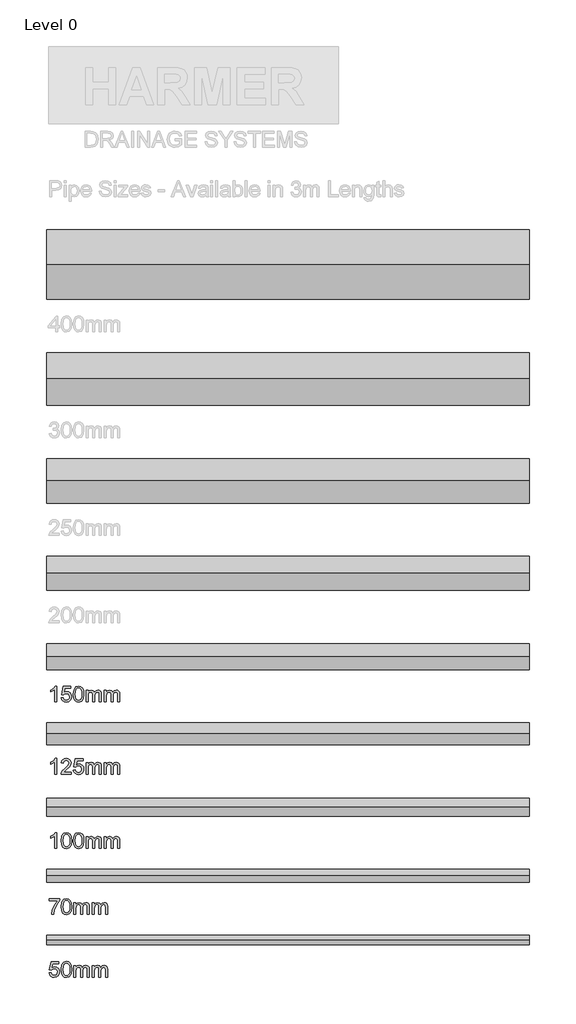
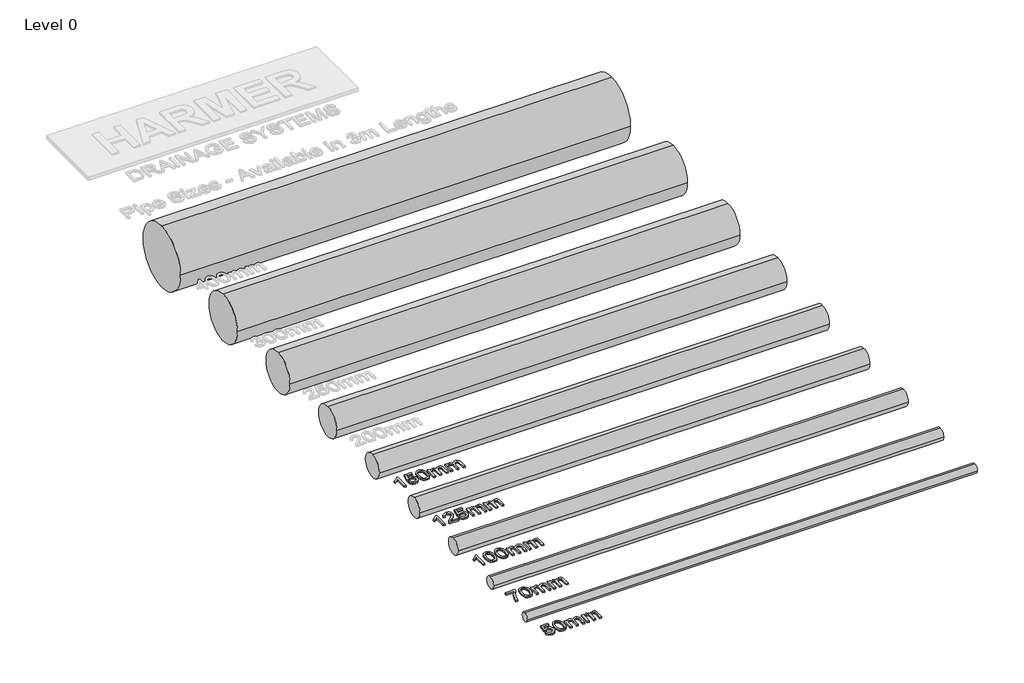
# One storey, part 1 of 3: 9 pipe fittings, 5 proxies.
"""IFC4 building model written with IfcOpenShell, lengths in millimetres."""

from ifc_helpers import new_model, si_unit, point, frame, frame_2d, origin, origin_with_axes, place, context, project, spatial, polyline, circle_curve, trimmed, segment, composite_curve, outline, extrude, element, save

model = new_model("IFC4")

# Units and contexts
model_context = context("Model", 3, world=origin())
ifc_project = project(units=[si_unit("LENGTHUNIT", "METRE", prefix="MILLI")], contexts=[model_context])

# Site, building, storey
site = spatial("IfcSite", under=ifc_project)
building = spatial("IfcBuilding", under=site)
storey = spatial("IfcBuildingStorey", under=building, Name="Level 0", Elevation=0.0)

# Proxies
placement = place(None, origin())
element("IfcBuildingElementProxy", 1, Name="100mm Arial", ObjectType="100mm Arial", at=placement, inside=storey, context=model_context, shape_type="SweptSolid", body=[
    extrude(outline(polyline([(-6216.9364814, -2387.1105394), (-6204.6287891, -2385.5720779), (-6198.426866, -2398.2523663), (-6185.5662891, -2402.4951548), (-6176.7441737, -2401.0197942), (-6170.1335968, -2396.5937125), (-6166.004991, -2389.7277269), (-6164.6287891, -2380.9326548), (-6169.7850391, -2366.3172702), (-6176.2603997, -2362.2968375), (-6185.3739814, -2360.9566933), (-6196.1792699, -2363.0961163), (-6203.0903276, -2368.649001), (-6215.3980199, -2367.1105394), (-6204.6287891, -2316.3413086), (-6156.9364814, -2316.3413086), (-6156.9364814, -2328.649001), (-6194.676866, -2328.649001), (-6199.9412891, -2355.7643856), (-6191.1492218, -2350.4278471), (-6181.9364814, -2348.649001), (-6170.4370824, -2350.8545298), (-6160.8908083, -2357.4711163), (-6154.4635247, -2367.555251), (-6152.3210968, -2380.163424), (-6154.2501833, -2392.4711163), (-6160.037443, -2402.9999625), (-6171.1191737, -2411.852126), (-6185.614366, -2414.8028471), (-6197.7027074, -2412.9068135), (-6207.333116, -2407.2187125), (-6213.9346785, -2398.3996019), (-6216.9364814, -2387.1105394)])), origin_with_axes(), (0.0, 0.0, 1.0), 10.0),
    extrude(outline(polyline([(-6141.551866, -2364.8268856), (-6137.9340776, -2336.4975586), (-6127.1888853, -2320.163424), (-6109.2441737, -2314.8028471), (-6094.8691737, -2317.975924), (-6084.9412891, -2327.1225586), (-6079.1720583, -2341.6898663), (-6076.9364814, -2364.8268856), (-6080.5182122, -2393.0360202), (-6091.2273468, -2409.4062125), (-6109.2441737, -2414.8028471), (-6122.0326353, -2412.4590971), (-6131.7441737, -2405.4278471), (-6139.099943, -2388.7752029), (-6141.551866, -2364.8268856)]), holes=[polyline([(-6129.2441737, -2364.8028471), (-6127.801866, -2384.1628231), (-6123.474943, -2395.367751), (-6117.0326353, -2400.7133038), (-6109.2441737, -2402.4951548), (-6101.4557122, -2400.7072942), (-6095.0134045, -2395.3437125), (-6090.6864814, -2384.132775), (-6089.2441737, -2364.8028471), (-6090.6384045, -2345.8785683), (-6094.8210968, -2334.586501), (-6101.2513853, -2328.9795298), (-6109.3884045, -2327.1105394), (-6117.0927314, -2328.757174), (-6123.2826353, -2333.6970779), (-6127.7537891, -2345.6922702), (-6129.2441737, -2364.8028471)])]), origin_with_axes(), (0.0, 0.0, 1.0), 10.0),
    extrude(outline(polyline([(-6063.0903276, -2413.2643856), (-6063.0903276, -2340.9566933), (-6050.7826353, -2340.9566933), (-6050.7826353, -2352.8557317), (-6042.3210968, -2343.1081356), (-6030.2778276, -2339.4182317), (-6017.9460968, -2343.180251), (-6011.1672507, -2353.7211163), (-6001.5638853, -2342.9939529), (-5989.4364814, -2339.4182317), (-5980.1846785, -2340.9056115), (-5973.3427314, -2345.367751), (-5969.114967, -2352.9248423), (-5967.7057122, -2363.6970779), (-5967.7057122, -2413.2643856), (-5980.0134045, -2413.2643856), (-5980.0134045, -2368.9855394), (-5981.1552314, -2358.7090971), (-5985.2898468, -2353.649001), (-5992.3210968, -2351.725924), (-6004.4244622, -2356.6538086), (-6009.2441737, -2372.4470779), (-6009.2441737, -2413.2643856), (-6021.551866, -2413.2643856), (-6021.551866, -2367.6153471), (-6024.4004237, -2355.6922702), (-6033.739366, -2351.725924), (-6042.849943, -2354.3701548), (-6048.9076353, -2362.1105394), (-6050.7826353, -2376.7980394), (-6050.7826353, -2413.2643856), (-6063.0903276, -2413.2643856)])), origin_with_axes(), (0.0, 0.0, 1.0), 10.0),
    extrude(outline(polyline([(-5949.2441737, -2413.2643856), (-5949.2441737, -2340.9566933), (-5936.9364814, -2340.9566933), (-5936.9364814, -2352.8557317), (-5928.474943, -2343.1081356), (-5916.4316737, -2339.4182317), (-5904.099943, -2343.180251), (-5897.3210968, -2353.7211163), (-5887.7177314, -2342.9939529), (-5875.5903276, -2339.4182317), (-5866.3385247, -2340.9056115), (-5859.4965776, -2345.367751), (-5855.2688132, -2352.9248423), (-5853.8595583, -2363.6970779), (-5853.8595583, -2413.2643856), (-5866.1672507, -2413.2643856), (-5866.1672507, -2368.9855394), (-5867.3090776, -2358.7090971), (-5871.443693, -2353.649001), (-5878.474943, -2351.725924), (-5890.5783083, -2356.6538086), (-5895.3980199, -2372.4470779), (-5895.3980199, -2413.2643856), (-5907.7057122, -2413.2643856), (-5907.7057122, -2367.6153471), (-5910.5542699, -2355.6922702), (-5919.8932122, -2351.725924), (-5929.0037891, -2354.3701548), (-5935.0614814, -2362.1105394), (-5936.9364814, -2376.7980394), (-5936.9364814, -2413.2643856), (-5949.2441737, -2413.2643856)])), origin_with_axes(), (0.0, 0.0, 1.0), 10.0),
])
element("IfcBuildingElementProxy", 2, Name="100mm Arial", ObjectType="100mm Arial", at=placement, inside=storey, context=model_context, shape_type="SweptSolid", body=[
    extrude(outline(polyline([(-6216.9364814, -1938.649001), (-6216.9364814, -1926.3413086), (-6152.3210968, -1926.3413086), (-6152.3210968, -1936.2932317), (-6170.6504237, -1962.7715971), (-6184.676866, -1996.5095779), (-6189.2441737, -2023.2643856), (-6201.551866, -2023.2643856), (-6196.6600391, -1995.4999625), (-6183.2345583, -1964.117751), (-6164.6287891, -1938.649001), (-6216.9364814, -1938.649001)])), origin_with_axes(), (0.0, 0.0, 1.0), 10.0),
    extrude(outline(polyline([(-6141.551866, -1974.8268856), (-6137.9340776, -1946.4975586), (-6127.1888853, -1930.163424), (-6109.2441737, -1924.8028471), (-6094.8691737, -1927.975924), (-6084.9412891, -1937.1225586), (-6079.1720583, -1951.6898663), (-6076.9364814, -1974.8268856), (-6080.5182122, -2003.0360202), (-6091.2273468, -2019.4062125), (-6109.2441737, -2024.8028471), (-6122.0326353, -2022.4590971), (-6131.7441737, -2015.4278471), (-6139.099943, -1998.7752029), (-6141.551866, -1974.8268856)]), holes=[polyline([(-6129.2441737, -1974.8028471), (-6127.801866, -1994.1628231), (-6123.474943, -2005.367751), (-6117.0326353, -2010.7133038), (-6109.2441737, -2012.4951548), (-6101.4557122, -2010.7072942), (-6095.0134045, -2005.3437125), (-6090.6864814, -1994.132775), (-6089.2441737, -1974.8028471), (-6090.6384045, -1955.8785683), (-6094.8210968, -1944.586501), (-6101.2513853, -1938.9795298), (-6109.3884045, -1937.1105394), (-6117.0927314, -1938.757174), (-6123.2826353, -1943.6970779), (-6127.7537891, -1955.6922702), (-6129.2441737, -1974.8028471)])]), origin_with_axes(), (0.0, 0.0, 1.0), 10.0),
    extrude(outline(polyline([(-6063.0903276, -2023.2643856), (-6063.0903276, -1950.9566933), (-6050.7826353, -1950.9566933), (-6050.7826353, -1962.8557317), (-6042.3210968, -1953.1081356), (-6030.2778276, -1949.4182317), (-6017.9460968, -1953.180251), (-6011.1672507, -1963.7211163), (-6001.5638853, -1952.9939529), (-5989.4364814, -1949.4182317), (-5980.1846785, -1950.9056115), (-5973.3427314, -1955.367751), (-5969.114967, -1962.9248423), (-5967.7057122, -1973.6970779), (-5967.7057122, -2023.2643856), (-5980.0134045, -2023.2643856), (-5980.0134045, -1978.9855394), (-5981.1552314, -1968.7090971), (-5985.2898468, -1963.649001), (-5992.3210968, -1961.725924), (-6004.4244622, -1966.6538086), (-6009.2441737, -1982.4470779), (-6009.2441737, -2023.2643856), (-6021.551866, -2023.2643856), (-6021.551866, -1977.6153471), (-6024.4004237, -1965.6922702), (-6033.739366, -1961.725924), (-6042.849943, -1964.3701548), (-6048.9076353, -1972.1105394), (-6050.7826353, -1986.7980394), (-6050.7826353, -2023.2643856), (-6063.0903276, -2023.2643856)])), origin_with_axes(), (0.0, 0.0, 1.0), 10.0),
    extrude(outline(polyline([(-5949.2441737, -2023.2643856), (-5949.2441737, -1950.9566933), (-5936.9364814, -1950.9566933), (-5936.9364814, -1962.8557317), (-5928.474943, -1953.1081356), (-5916.4316737, -1949.4182317), (-5904.099943, -1953.180251), (-5897.3210968, -1963.7211163), (-5887.7177314, -1952.9939529), (-5875.5903276, -1949.4182317), (-5866.3385247, -1950.9056115), (-5859.4965776, -1955.367751), (-5855.2688132, -1962.9248423), (-5853.8595583, -1973.6970779), (-5853.8595583, -2023.2643856), (-5866.1672507, -2023.2643856), (-5866.1672507, -1978.9855394), (-5867.3090776, -1968.7090971), (-5871.443693, -1963.649001), (-5878.474943, -1961.725924), (-5890.5783083, -1966.6538086), (-5895.3980199, -1982.4470779), (-5895.3980199, -2023.2643856), (-5907.7057122, -2023.2643856), (-5907.7057122, -1977.6153471), (-5910.5542699, -1965.6922702), (-5919.8932122, -1961.725924), (-5929.0037891, -1964.3701548), (-5935.0614814, -1972.1105394), (-5936.9364814, -1986.7980394), (-5936.9364814, -2023.2643856), (-5949.2441737, -2023.2643856)])), origin_with_axes(), (0.0, 0.0, 1.0), 10.0),
])
element("IfcBuildingElementProxy", 3, Name="100mm Arial", ObjectType="100mm Arial", at=placement, inside=storey, context=model_context, shape_type="SweptSolid", body=[
    extrude(outline(polyline([(-6170.7826353, -1613.2643856), (-6183.0903276, -1613.2643856), (-6183.0903276, -1536.5336163), (-6194.7489814, -1544.8389048), (-6207.7057122, -1551.0528471), (-6207.7057122, -1539.4182317), (-6189.6648468, -1527.9038086), (-6178.7153276, -1514.8028471), (-6170.7826353, -1514.8028471), (-6170.7826353, -1613.2643856)])), origin_with_axes(), (0.0, 0.0, 1.0), 10.0),
    extrude(outline(polyline([(-6141.551866, -1564.8268856), (-6137.9340776, -1536.4975586), (-6127.1888853, -1520.163424), (-6109.2441737, -1514.8028471), (-6094.8691737, -1517.975924), (-6084.9412891, -1527.1225586), (-6079.1720583, -1541.6898663), (-6076.9364814, -1564.8268856), (-6080.5182122, -1593.0360202), (-6091.2273468, -1609.4062125), (-6109.2441737, -1614.8028471), (-6122.0326353, -1612.4590971), (-6131.7441737, -1605.4278471), (-6139.099943, -1588.7752029), (-6141.551866, -1564.8268856)]), holes=[polyline([(-6129.2441737, -1564.8028471), (-6127.801866, -1584.1628231), (-6123.474943, -1595.367751), (-6117.0326353, -1600.7133038), (-6109.2441737, -1602.4951548), (-6101.4557122, -1600.7072942), (-6095.0134045, -1595.3437125), (-6090.6864814, -1584.132775), (-6089.2441737, -1564.8028471), (-6090.6384045, -1545.8785683), (-6094.8210968, -1534.586501), (-6101.2513853, -1528.9795298), (-6109.3884045, -1527.1105394), (-6117.0927314, -1528.757174), (-6123.2826353, -1533.6970779), (-6127.7537891, -1545.6922702), (-6129.2441737, -1564.8028471)])]), origin_with_axes(), (0.0, 0.0, 1.0), 10.0),
    extrude(outline(polyline([(-6066.1672507, -1564.8268856), (-6062.5494622, -1536.4975586), (-6051.8042699, -1520.163424), (-6033.8595583, -1514.8028471), (-6019.4845583, -1517.975924), (-6009.5566737, -1527.1225586), (-6003.787443, -1541.6898663), (-6001.551866, -1564.8268856), (-6005.1335968, -1593.0360202), (-6015.8427314, -1609.4062125), (-6033.8595583, -1614.8028471), (-6046.6480199, -1612.4590971), (-6056.3595583, -1605.4278471), (-6063.7153276, -1588.7752029), (-6066.1672507, -1564.8268856)]), holes=[polyline([(-6053.8595583, -1564.8028471), (-6052.4172507, -1584.1628231), (-6048.0903276, -1595.367751), (-6041.6480199, -1600.7133038), (-6033.8595583, -1602.4951548), (-6026.0710968, -1600.7072942), (-6019.6287891, -1595.3437125), (-6015.301866, -1584.132775), (-6013.8595583, -1564.8028471), (-6015.2537891, -1545.8785683), (-6019.4364814, -1534.586501), (-6025.8667699, -1528.9795298), (-6034.0037891, -1527.1105394), (-6041.708116, -1528.757174), (-6047.8980199, -1533.6970779), (-6052.3691737, -1545.6922702), (-6053.8595583, -1564.8028471)])]), origin_with_axes(), (0.0, 0.0, 1.0), 10.0),
    extrude(outline(polyline([(-5987.7057122, -1613.2643856), (-5987.7057122, -1540.9566933), (-5975.3980199, -1540.9566933), (-5975.3980199, -1552.8557317), (-5966.9364814, -1543.1081356), (-5954.8932122, -1539.4182317), (-5942.5614814, -1543.180251), (-5935.7826353, -1553.7211163), (-5926.1792699, -1542.9939529), (-5914.051866, -1539.4182317), (-5904.8000632, -1540.9056115), (-5897.958116, -1545.367751), (-5893.7303516, -1552.9248423), (-5892.3210968, -1563.6970779), (-5892.3210968, -1613.2643856), (-5904.6287891, -1613.2643856), (-5904.6287891, -1568.9855394), (-5905.770616, -1558.7090971), (-5909.9052314, -1553.649001), (-5916.9364814, -1551.725924), (-5929.0398468, -1556.6538086), (-5933.8595583, -1572.4470779), (-5933.8595583, -1613.2643856), (-5946.1672507, -1613.2643856), (-5946.1672507, -1567.6153471), (-5949.0158083, -1555.6922702), (-5958.3547507, -1551.725924), (-5967.4653276, -1554.3701548), (-5973.5230199, -1562.1105394), (-5975.3980199, -1576.7980394), (-5975.3980199, -1613.2643856), (-5987.7057122, -1613.2643856)])), origin_with_axes(), (0.0, 0.0, 1.0), 10.0),
    extrude(outline(polyline([(-5873.8595583, -1613.2643856), (-5873.8595583, -1540.9566933), (-5861.551866, -1540.9566933), (-5861.551866, -1552.8557317), (-5853.0903276, -1543.1081356), (-5841.0470583, -1539.4182317), (-5828.7153276, -1543.180251), (-5821.9364814, -1553.7211163), (-5812.333116, -1542.9939529), (-5800.2057122, -1539.4182317), (-5790.9539093, -1540.9056115), (-5784.1119622, -1545.367751), (-5779.8841978, -1552.9248423), (-5778.474943, -1563.6970779), (-5778.474943, -1613.2643856), (-5790.7826353, -1613.2643856), (-5790.7826353, -1568.9855394), (-5791.9244622, -1558.7090971), (-5796.0590776, -1553.649001), (-5803.0903276, -1551.725924), (-5815.193693, -1556.6538086), (-5820.0134045, -1572.4470779), (-5820.0134045, -1613.2643856), (-5832.3210968, -1613.2643856), (-5832.3210968, -1567.6153471), (-5835.1696545, -1555.6922702), (-5844.5085968, -1551.725924), (-5853.6191737, -1554.3701548), (-5859.676866, -1562.1105394), (-5861.551866, -1576.7980394), (-5861.551866, -1613.2643856), (-5873.8595583, -1613.2643856)])), origin_with_axes(), (0.0, 0.0, 1.0), 10.0),
])
element("IfcBuildingElementProxy", 4, Name="100mm Arial", ObjectType="100mm Arial", at=placement, inside=storey, context=model_context, shape_type="SweptSolid", body=[
    extrude(outline(polyline([(-6170.7826353, -1153.2643856), (-6183.0903276, -1153.2643856), (-6183.0903276, -1076.5336163), (-6194.7489814, -1084.8389048), (-6207.7057122, -1091.0528471), (-6207.7057122, -1079.4182317), (-6189.6648468, -1067.9038086), (-6178.7153276, -1054.8028471), (-6170.7826353, -1054.8028471), (-6170.7826353, -1153.2643856)])), origin_with_axes(), (0.0, 0.0, 1.0), 10.0),
    extrude(outline(polyline([(-6078.474943, -1140.9566933), (-6078.474943, -1153.2643856), (-6143.0903276, -1153.2643856), (-6141.7682122, -1144.7788086), (-6134.2922507, -1131.7139048), (-6118.8835968, -1117.4470779), (-6097.6335968, -1096.9422702), (-6092.3210968, -1082.9999625), (-6097.333116, -1071.7139048), (-6110.4220583, -1067.1105394), (-6124.0638853, -1071.6057317), (-6129.2441737, -1084.0336163), (-6141.551866, -1082.4951548), (-6138.568092, -1070.5901067), (-6132.1167699, -1061.8941933), (-6122.5344382, -1056.5756836), (-6110.1576353, -1054.8028471), (-6097.6906882, -1056.774001), (-6088.1263853, -1062.6874625), (-6082.0416497, -1071.5215971), (-6080.0134045, -1082.2547702), (-6082.2009045, -1093.9254433), (-6089.4725391, -1105.992751), (-6107.1047507, -1122.8557317), (-6121.2634045, -1134.694674), (-6126.8162891, -1140.9566933), (-6078.474943, -1140.9566933)])), origin_with_axes(), (0.0, 0.0, 1.0), 10.0),
    extrude(outline(polyline([(-6066.1672507, -1127.1105394), (-6053.8595583, -1125.5720779), (-6047.6576353, -1138.2523663), (-6034.7970583, -1142.4951548), (-6025.974943, -1141.0197942), (-6019.364366, -1136.5937125), (-6015.2357603, -1129.7277269), (-6013.8595583, -1120.9326548), (-6019.0158083, -1106.3172702), (-6025.4911689, -1102.2968375), (-6034.6047507, -1100.9566933), (-6045.4100391, -1103.0961163), (-6052.3210968, -1108.649001), (-6064.6287891, -1107.1105394), (-6053.8595583, -1056.3413086), (-6006.1672507, -1056.3413086), (-6006.1672507, -1068.649001), (-6043.9076353, -1068.649001), (-6049.1720583, -1095.7643856), (-6040.379991, -1090.4278471), (-6031.1672507, -1088.649001), (-6019.6678516, -1090.8545298), (-6010.1215776, -1097.4711163), (-6003.6942939, -1107.555251), (-6001.551866, -1120.163424), (-6003.4809526, -1132.4711163), (-6009.2682122, -1142.9999625), (-6020.349943, -1151.852126), (-6034.8451353, -1154.8028471), (-6046.9334766, -1152.9068135), (-6056.5638853, -1147.2187125), (-6063.1654478, -1138.3996019), (-6066.1672507, -1127.1105394)])), origin_with_axes(), (0.0, 0.0, 1.0), 10.0),
    extrude(outline(polyline([(-5987.7057122, -1153.2643856), (-5987.7057122, -1080.9566933), (-5975.3980199, -1080.9566933), (-5975.3980199, -1092.8557317), (-5966.9364814, -1083.1081356), (-5954.8932122, -1079.4182317), (-5942.5614814, -1083.180251), (-5935.7826353, -1093.7211163), (-5926.1792699, -1082.9939529), (-5914.051866, -1079.4182317), (-5904.8000632, -1080.9056115), (-5897.958116, -1085.367751), (-5893.7303516, -1092.9248423), (-5892.3210968, -1103.6970779), (-5892.3210968, -1153.2643856), (-5904.6287891, -1153.2643856), (-5904.6287891, -1108.9855394), (-5905.770616, -1098.7090971), (-5909.9052314, -1093.649001), (-5916.9364814, -1091.725924), (-5929.0398468, -1096.6538086), (-5933.8595583, -1112.4470779), (-5933.8595583, -1153.2643856), (-5946.1672507, -1153.2643856), (-5946.1672507, -1107.6153471), (-5949.0158083, -1095.6922702), (-5958.3547507, -1091.725924), (-5967.4653276, -1094.3701548), (-5973.5230199, -1102.1105394), (-5975.3980199, -1116.7980394), (-5975.3980199, -1153.2643856), (-5987.7057122, -1153.2643856)])), origin_with_axes(), (0.0, 0.0, 1.0), 10.0),
    extrude(outline(polyline([(-5873.8595583, -1153.2643856), (-5873.8595583, -1080.9566933), (-5861.551866, -1080.9566933), (-5861.551866, -1092.8557317), (-5853.0903276, -1083.1081356), (-5841.0470583, -1079.4182317), (-5828.7153276, -1083.180251), (-5821.9364814, -1093.7211163), (-5812.333116, -1082.9939529), (-5800.2057122, -1079.4182317), (-5790.9539093, -1080.9056115), (-5784.1119622, -1085.367751), (-5779.8841978, -1092.9248423), (-5778.474943, -1103.6970779), (-5778.474943, -1153.2643856), (-5790.7826353, -1153.2643856), (-5790.7826353, -1108.9855394), (-5791.9244622, -1098.7090971), (-5796.0590776, -1093.649001), (-5803.0903276, -1091.725924), (-5815.193693, -1096.6538086), (-5820.0134045, -1112.4470779), (-5820.0134045, -1153.2643856), (-5832.3210968, -1153.2643856), (-5832.3210968, -1107.6153471), (-5835.1696545, -1095.6922702), (-5844.5085968, -1091.725924), (-5853.6191737, -1094.3701548), (-5859.676866, -1102.1105394), (-5861.551866, -1116.7980394), (-5861.551866, -1153.2643856), (-5873.8595583, -1153.2643856)])), origin_with_axes(), (0.0, 0.0, 1.0), 10.0),
])
element("IfcBuildingElementProxy", 5, Name="100mm Arial", ObjectType="100mm Arial", at=placement, inside=storey, context=model_context, shape_type="SweptSolid", body=[
    extrude(outline(polyline([(-6170.7826353, -704.2643856), (-6183.0903276, -704.2643856), (-6183.0903276, -627.5336163), (-6194.7489814, -635.8389048), (-6207.7057122, -642.0528471), (-6207.7057122, -630.4182317), (-6189.6648468, -618.9038086), (-6178.7153276, -605.8028471), (-6170.7826353, -605.8028471), (-6170.7826353, -704.2643856)])), origin_with_axes(), (0.0, 0.0, 1.0), 10.0),
    extrude(outline(polyline([(-6141.551866, -678.1105394), (-6129.2441737, -676.5720779), (-6123.0422507, -689.2523663), (-6110.1816737, -693.4951548), (-6101.3595583, -692.0197942), (-6094.7489814, -687.5937125), (-6090.6203757, -680.7277269), (-6089.2441737, -671.9326548), (-6094.4004237, -657.3172702), (-6100.8757843, -653.2968375), (-6109.989366, -651.9566933), (-6120.7946545, -654.0961163), (-6127.7057122, -659.649001), (-6140.0134045, -658.1105394), (-6129.2441737, -607.3413086), (-6081.551866, -607.3413086), (-6081.551866, -619.649001), (-6119.2922507, -619.649001), (-6124.5566737, -646.7643856), (-6115.7646064, -641.4278471), (-6106.551866, -639.649001), (-6095.052467, -641.8545298), (-6085.506193, -648.4711163), (-6079.0789093, -658.555251), (-6076.9364814, -671.163424), (-6078.865568, -683.4711163), (-6084.6528276, -693.9999625), (-6095.7345583, -702.852126), (-6110.2297507, -705.8028471), (-6122.318092, -703.9068135), (-6131.9485007, -698.2187125), (-6138.5500632, -689.3996019), (-6141.551866, -678.1105394)])), origin_with_axes(), (0.0, 0.0, 1.0), 10.0),
    extrude(outline(polyline([(-6066.1672507, -655.8268856), (-6062.5494622, -627.4975586), (-6051.8042699, -611.163424), (-6033.8595583, -605.8028471), (-6019.4845583, -608.975924), (-6009.5566737, -618.1225586), (-6003.787443, -632.6898663), (-6001.551866, -655.8268856), (-6005.1335968, -684.0360202), (-6015.8427314, -700.4062125), (-6033.8595583, -705.8028471), (-6046.6480199, -703.4590971), (-6056.3595583, -696.4278471), (-6063.7153276, -679.7752029), (-6066.1672507, -655.8268856)]), holes=[polyline([(-6053.8595583, -655.8028471), (-6052.4172507, -675.1628231), (-6048.0903276, -686.367751), (-6041.6480199, -691.7133038), (-6033.8595583, -693.4951548), (-6026.0710968, -691.7072942), (-6019.6287891, -686.3437125), (-6015.301866, -675.132775), (-6013.8595583, -655.8028471), (-6015.2537891, -636.8785683), (-6019.4364814, -625.586501), (-6025.8667699, -619.9795298), (-6034.0037891, -618.1105394), (-6041.708116, -619.757174), (-6047.8980199, -624.6970779), (-6052.3691737, -636.6922702), (-6053.8595583, -655.8028471)])]), origin_with_axes(), (0.0, 0.0, 1.0), 10.0),
    extrude(outline(polyline([(-5987.7057122, -704.2643856), (-5987.7057122, -631.9566933), (-5975.3980199, -631.9566933), (-5975.3980199, -643.8557317), (-5966.9364814, -634.1081356), (-5954.8932122, -630.4182317), (-5942.5614814, -634.180251), (-5935.7826353, -644.7211163), (-5926.1792699, -633.9939529), (-5914.051866, -630.4182317), (-5904.8000632, -631.9056115), (-5897.958116, -636.367751), (-5893.7303516, -643.9248423), (-5892.3210968, -654.6970779), (-5892.3210968, -704.2643856), (-5904.6287891, -704.2643856), (-5904.6287891, -659.9855394), (-5905.770616, -649.7090971), (-5909.9052314, -644.649001), (-5916.9364814, -642.725924), (-5929.0398468, -647.6538086), (-5933.8595583, -663.4470779), (-5933.8595583, -704.2643856), (-5946.1672507, -704.2643856), (-5946.1672507, -658.6153471), (-5949.0158083, -646.6922702), (-5958.3547507, -642.725924), (-5967.4653276, -645.3701548), (-5973.5230199, -653.1105394), (-5975.3980199, -667.7980394), (-5975.3980199, -704.2643856), (-5987.7057122, -704.2643856)])), origin_with_axes(), (0.0, 0.0, 1.0), 10.0),
    extrude(outline(polyline([(-5873.8595583, -704.2643856), (-5873.8595583, -631.9566933), (-5861.551866, -631.9566933), (-5861.551866, -643.8557317), (-5853.0903276, -634.1081356), (-5841.0470583, -630.4182317), (-5828.7153276, -634.180251), (-5821.9364814, -644.7211163), (-5812.333116, -633.9939529), (-5800.2057122, -630.4182317), (-5790.9539093, -631.9056115), (-5784.1119622, -636.367751), (-5779.8841978, -643.9248423), (-5778.474943, -654.6970779), (-5778.474943, -704.2643856), (-5790.7826353, -704.2643856), (-5790.7826353, -659.9855394), (-5791.9244622, -649.7090971), (-5796.0590776, -644.649001), (-5803.0903276, -642.725924), (-5815.193693, -647.6538086), (-5820.0134045, -663.4470779), (-5820.0134045, -704.2643856), (-5832.3210968, -704.2643856), (-5832.3210968, -658.6153471), (-5835.1696545, -646.6922702), (-5844.5085968, -642.725924), (-5853.6191737, -645.3701548), (-5859.676866, -653.1105394), (-5861.551866, -667.7980394), (-5861.551866, -704.2643856), (-5873.8595583, -704.2643856)])), origin_with_axes(), (0.0, 0.0, 1.0), 10.0),
])

# Pipe fittings
element("IfcPipeFitting", 6, ObjectType="Pipe-Cast Iron-Harmer-SML", at=placement, inside=storey, context=model_context, shape_type="SweptSolid", body=[
    extrude(outline(composite_curve([segment(trimmed(circle_curve(frame_2d((-2182.7376087, 0.0)), 30.0), [point((-2212.7376087, 0.0))], [point((-2182.7376087, 30.0))], False, "CARTESIAN"), True, "CONTINUOUS"), segment(trimmed(circle_curve(frame_2d((-2182.7376087, 0.0)), 30.0), [point((-2182.7376087, 30.0))], [point((-2152.7376087, 0.0))], False, "CARTESIAN"), True, "CONTINUOUS"), segment(trimmed(circle_curve(frame_2d((-2182.7376087, 0.0)), 30.0), [point((-2152.7376087, 0.0))], [point((-2182.7376087, -30.0))], False, "CARTESIAN"), True, "CONTINUOUS"), segment(trimmed(circle_curve(frame_2d((-2182.7376087, 0.0)), 30.0), [point((-2182.7376087, -30.0))], [point((-2212.7376087, 0.0))], False, "CARTESIAN"), True, "CONTINUOUS")], self_intersect=False)), frame((-6233.2625225, 0.0, 0.0), z_axis=(1.0, 0.0, 0.0), x_axis=(0.0, 1.0, 0.0)), (0.0, 0.0, 1.0), 3000.0),
])
element("IfcPipeFitting", 7, ObjectType="Pipe-Cast Iron-Harmer-SML", at=placement, inside=storey, context=model_context, shape_type="SweptSolid", body=[
    extrude(outline(composite_curve([segment(trimmed(circle_curve(frame_2d((-1782.7376087, 0.0)), 40.0), [point((-1822.7376087, 0.0))], [point((-1782.7376087, 40.0))], False, "CARTESIAN"), True, "CONTINUOUS"), segment(trimmed(circle_curve(frame_2d((-1782.7376087, 0.0)), 40.0), [point((-1782.7376087, 40.0))], [point((-1742.7376087, 0.0))], False, "CARTESIAN"), True, "CONTINUOUS"), segment(trimmed(circle_curve(frame_2d((-1782.7376087, 0.0)), 40.0), [point((-1742.7376087, 0.0))], [point((-1782.7376087, -40.0))], False, "CARTESIAN"), True, "CONTINUOUS"), segment(trimmed(circle_curve(frame_2d((-1782.7376087, 0.0)), 40.0), [point((-1782.7376087, -40.0))], [point((-1822.7376087, 0.0))], False, "CARTESIAN"), True, "CONTINUOUS")], self_intersect=False)), frame((-6233.2625225, 0.0, 0.0), z_axis=(1.0, 0.0, 0.0), x_axis=(0.0, 1.0, 0.0)), (0.0, 0.0, 1.0), 3000.0),
])
element("IfcPipeFitting", 8, ObjectType="Pipe-Cast Iron-Harmer-SML", at=placement, inside=storey, context=model_context, shape_type="SweptSolid", body=[
    extrude(outline(composite_curve([segment(trimmed(circle_curve(frame_2d((-1356.7376087, 0.0)), 56.0), [point((-1412.7376087, 0.0))], [point((-1356.7376087, 56.0))], False, "CARTESIAN"), True, "CONTINUOUS"), segment(trimmed(circle_curve(frame_2d((-1356.7376087, 0.0)), 56.0), [point((-1356.7376087, 56.0))], [point((-1300.7376087, 0.0))], False, "CARTESIAN"), True, "CONTINUOUS"), segment(trimmed(circle_curve(frame_2d((-1356.7376087, 0.0)), 56.0), [point((-1300.7376087, 0.0))], [point((-1356.7376087, -56.0))], False, "CARTESIAN"), True, "CONTINUOUS"), segment(trimmed(circle_curve(frame_2d((-1356.7376087, 0.0)), 56.0), [point((-1356.7376087, -56.0))], [point((-1412.7376087, 0.0))], False, "CARTESIAN"), True, "CONTINUOUS")], self_intersect=False)), frame((-6233.2625225, 0.0, 0.0), z_axis=(1.0, 0.0, 0.0), x_axis=(0.0, 1.0, 0.0)), (0.0, 0.0, 1.0), 3000.0),
])
element("IfcPipeFitting", 9, ObjectType="Pipe-Cast Iron-Harmer-SML", at=placement, inside=storey, context=model_context, shape_type="SweptSolid", body=[
    extrude(outline(composite_curve([segment(trimmed(circle_curve(frame_2d((-902.2376087, 0.0)), 68.5), [point((-970.7376087, 0.0))], [point((-902.2376087, 68.5))], False, "CARTESIAN"), True, "CONTINUOUS"), segment(trimmed(circle_curve(frame_2d((-902.2376087, 0.0)), 68.5), [point((-902.2376087, 68.5))], [point((-833.7376087, 0.0))], False, "CARTESIAN"), True, "CONTINUOUS"), segment(trimmed(circle_curve(frame_2d((-902.2376087, 0.0)), 68.5), [point((-833.7376087, 0.0))], [point((-902.2376087, -68.5))], False, "CARTESIAN"), True, "CONTINUOUS"), segment(trimmed(circle_curve(frame_2d((-902.2376087, 0.0)), 68.5), [point((-902.2376087, -68.5))], [point((-970.7376087, 0.0))], False, "CARTESIAN"), True, "CONTINUOUS")], self_intersect=False)), frame((-6233.2625225, 0.0, 0.0), z_axis=(1.0, 0.0, 0.0), x_axis=(0.0, 1.0, 0.0)), (0.0, 0.0, 1.0), 3000.0),
])
element("IfcPipeFitting", 10, ObjectType="Pipe-Cast Iron-Harmer-SML", at=placement, inside=storey, context=model_context, shape_type="SweptSolid", body=[
    extrude(outline(composite_curve([segment(trimmed(circle_curve(frame_2d((-422.7376087, 0.0)), 81.0), [point((-503.7376087, 0.0))], [point((-422.7376087, 81.0))], False, "CARTESIAN"), True, "CONTINUOUS"), segment(trimmed(circle_curve(frame_2d((-422.7376087, 0.0)), 81.0), [point((-422.7376087, 81.0))], [point((-341.7376087, 0.0))], False, "CARTESIAN"), True, "CONTINUOUS"), segment(trimmed(circle_curve(frame_2d((-422.7376087, 0.0)), 81.0), [point((-341.7376087, 0.0))], [point((-422.7376087, -81.0))], False, "CARTESIAN"), True, "CONTINUOUS"), segment(trimmed(circle_curve(frame_2d((-422.7376087, 0.0)), 81.0), [point((-422.7376087, -81.0))], [point((-503.7376087, 0.0))], False, "CARTESIAN"), True, "CONTINUOUS")], self_intersect=False)), frame((-6233.2625225, 0.0, 0.0), z_axis=(1.0, 0.0, 0.0), x_axis=(0.0, 1.0, 0.0)), (0.0, 0.0, 1.0), 3000.0),
])
element("IfcPipeFitting", 11, ObjectType="Pipe-Cast Iron-Harmer-SML", at=placement, inside=storey, context=model_context, shape_type="SweptSolid", body=[
    extrude(outline(composite_curve([segment(trimmed(circle_curve(frame_2d((94.2623913, 0.0)), 106.0), [point((-11.7376087, 0.0))], [point((94.2623913, 106.0))], False, "CARTESIAN"), True, "CONTINUOUS"), segment(trimmed(circle_curve(frame_2d((94.2623913, 0.0)), 106.0), [point((94.2623913, 106.0))], [point((200.2623913, 0.0))], False, "CARTESIAN"), True, "CONTINUOUS"), segment(trimmed(circle_curve(frame_2d((94.2623913, 0.0)), 106.0), [point((200.2623913, 0.0))], [point((94.2623913, -106.0))], False, "CARTESIAN"), True, "CONTINUOUS"), segment(trimmed(circle_curve(frame_2d((94.2623913, 0.0)), 106.0), [point((94.2623913, -106.0))], [point((-11.7376087, 0.0))], False, "CARTESIAN"), True, "CONTINUOUS")], self_intersect=False)), frame((-6233.2625225, 0.0, 0.0), z_axis=(1.0, 0.0, 0.0), x_axis=(0.0, 1.0, 0.0)), (0.0, 0.0, 1.0), 3000.0),
])
element("IfcPipeFitting", 12, ObjectType="Pipe-Cast Iron-Harmer-SML", at=placement, inside=storey, context=model_context, shape_type="SweptSolid", body=[
    extrude(outline(composite_curve([segment(trimmed(circle_curve(frame_2d((668.5123913, 0.0)), 138.25), [point((530.2623913, 0.0))], [point((668.5123913, 138.25))], False, "CARTESIAN"), True, "CONTINUOUS"), segment(trimmed(circle_curve(frame_2d((668.5123913, 0.0)), 138.25), [point((668.5123913, 138.25))], [point((806.7623913, 0.0))], False, "CARTESIAN"), True, "CONTINUOUS"), segment(trimmed(circle_curve(frame_2d((668.5123913, 0.0)), 138.25), [point((806.7623913, 0.0))], [point((668.5123913, -138.25))], False, "CARTESIAN"), True, "CONTINUOUS"), segment(trimmed(circle_curve(frame_2d((668.5123913, 0.0)), 138.25), [point((668.5123913, -138.25))], [point((530.2623913, 0.0))], False, "CARTESIAN"), True, "CONTINUOUS")], self_intersect=False)), frame((-6233.2625225, 0.0, 0.0), z_axis=(1.0, 0.0, 0.0), x_axis=(0.0, 1.0, 0.0)), (0.0, 0.0, 1.0), 3000.0),
])
element("IfcPipeFitting", 13, ObjectType="Pipe-Cast Iron-Harmer-SML", at=placement, inside=storey, context=model_context, shape_type="SweptSolid", body=[
    extrude(outline(composite_curve([segment(trimmed(circle_curve(frame_2d((1301.0123913, 0.0)), 164.25), [point((1136.7623913, 0.0))], [point((1301.0123913, 164.25))], False, "CARTESIAN"), True, "CONTINUOUS"), segment(trimmed(circle_curve(frame_2d((1301.0123913, 0.0)), 164.25), [point((1301.0123913, 164.25))], [point((1465.2623913, 0.0))], False, "CARTESIAN"), True, "CONTINUOUS"), segment(trimmed(circle_curve(frame_2d((1301.0123913, 0.0)), 164.25), [point((1465.2623913, 0.0))], [point((1301.0123913, -164.25))], False, "CARTESIAN"), True, "CONTINUOUS"), segment(trimmed(circle_curve(frame_2d((1301.0123913, 0.0)), 164.25), [point((1301.0123913, -164.25))], [point((1136.7623913, 0.0))], False, "CARTESIAN"), True, "CONTINUOUS")], self_intersect=False)), frame((-6233.2625225, 0.0, 0.0), z_axis=(1.0, 0.0, 0.0), x_axis=(0.0, 1.0, 0.0)), (0.0, 0.0, 1.0), 3000.0),
])
element("IfcPipeFitting", 14, ObjectType="Pipe-Cast Iron-Harmer-SML", at=placement, inside=storey, context=model_context, shape_type="SweptSolid", body=[
    extrude(outline(composite_curve([segment(trimmed(circle_curve(frame_2d((2010.7623913, 0.0)), 215.5), [point((1795.2623913, 0.0))], [point((2010.7623913, 215.5))], False, "CARTESIAN"), True, "CONTINUOUS"), segment(trimmed(circle_curve(frame_2d((2010.7623913, 0.0)), 215.5), [point((2010.7623913, 215.5))], [point((2226.2623913, 0.0))], False, "CARTESIAN"), True, "CONTINUOUS"), segment(trimmed(circle_curve(frame_2d((2010.7623913, 0.0)), 215.5), [point((2226.2623913, 0.0))], [point((2010.7623913, -215.5))], False, "CARTESIAN"), True, "CONTINUOUS"), segment(trimmed(circle_curve(frame_2d((2010.7623913, 0.0)), 215.5), [point((2010.7623913, -215.5))], [point((1795.2623913, 0.0))], False, "CARTESIAN"), True, "CONTINUOUS")], self_intersect=False)), frame((-6233.2625225, 0.0, 0.0), z_axis=(1.0, 0.0, 0.0), x_axis=(0.0, 1.0, 0.0)), (0.0, 0.0, 1.0), 3000.0),
])

save(model, "model.ifc")
